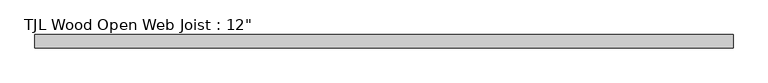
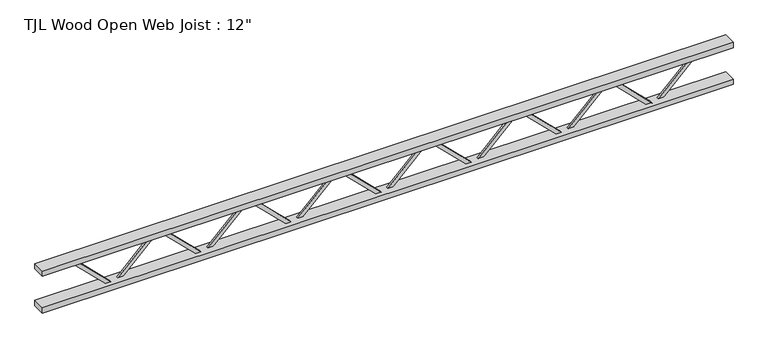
"""IFC4 building model written with IfcOpenShell, lengths in millimetres: beam geometry."""

import ifcopenshell
import ifcopenshell.guid

model = None  # the IFC model being written
_history = None  # IfcOwnerHistory: only IFC2X3 demands one
_inside = {}  # id of a spatial element -> (the spatial element, [elements in it])
_under = {}  # id of a project, library or spatial element -> (it, [spatial elements below it])
_declared = {}  # id of a project -> (the project, [libraries it declares])
_typed = {}  # id of a type object -> (the type object, [elements of that type])
_made_of = {}  # id of a material, layer set ... -> (it, [elements and type objects made of it])


def new_model(schema):
    """Start an empty IFC model of exactly this schema.

    Asked for "IFC4X3", IfcOpenShell would pick the latest addendum, in which some entities
    have other attributes; the version numbers below select the first issue.
    IFC2X3 requires an IfcOwnerHistory on every rooted entity: one is made here for all.
    """
    global model, _history
    if schema == "IFC4X3":
        model = ifcopenshell.file(schema_version=(4, 3, 0, 0))
    else:
        model = ifcopenshell.file(schema=schema)
    _inside.clear()
    _under.clear()
    _declared.clear()
    _typed.clear()
    _made_of.clear()
    _history = None
    if model.schema == "IFC2X3":
        org = make("IfcOrganization", Name="unknown")
        user = make(
            "IfcPersonAndOrganization",
            ThePerson=make("IfcPerson", FamilyName="unknown"),
            TheOrganization=org,
        )
        app = make(
            "IfcApplication",
            ApplicationDeveloper=org,
            Version="unknown",
            ApplicationFullName="unknown",
            ApplicationIdentifier="unknown",
        )
        _history = make(
            "IfcOwnerHistory",
            OwningUser=user,
            OwningApplication=app,
            ChangeAction="ADDED",
            CreationDate=0,
        )
    return model


def make(cls, **values):
    """One entity of the class cls with the attributes given. An attribute that is None is left unset."""
    return model.create_entity(
        cls, **{name: value for name, value in values.items() if value is not None}
    )


def rooted(cls, **values):
    """An entity with a GlobalId (a new one), such as an element, a storey or a relation."""
    return make(cls, GlobalId=ifcopenshell.guid.new(), OwnerHistory=_history, **values)


def si_unit(unit_type, name, prefix=None):
    """IfcSIUnit, for example si_unit("LENGTHUNIT", "METRE", prefix="MILLI")."""
    return make("IfcSIUnit", UnitType=unit_type, Prefix=prefix, Name=name)


def assignment(units):
    """IfcUnitAssignment: the units of a project."""
    return None if units is None else make("IfcUnitAssignment", Units=units)


def point(xyz):
    """IfcCartesianPoint."""
    return None if xyz is None else make("IfcCartesianPoint", Coordinates=xyz)


def direction(xyz):
    """IfcDirection."""
    return None if xyz is None else make("IfcDirection", DirectionRatios=xyz)


def frame(location, z_axis=None, x_axis=None):
    """IfcAxis2Placement3D, a coordinate frame: its origin and axes. An axis left out is left unset."""
    return make(
        "IfcAxis2Placement3D",
        Location=point(location),
        Axis=direction(z_axis),
        RefDirection=direction(x_axis),
    )


def origin():
    """The frame at (0, 0, 0) with its axes left unset."""
    return frame((0.0, 0.0, 0.0))


def place(relative_to, where):
    """IfcLocalPlacement: puts the frame where relative to a parent placement (None: the world)."""
    return make(
        "IfcLocalPlacement", PlacementRelTo=relative_to, RelativePlacement=where
    )


def context(
    kind, dimensions, precision=None, world=None, true_north=None, identifier=None
):
    """IfcGeometricRepresentationContext, for example the 3D "Model" context."""
    return make(
        "IfcGeometricRepresentationContext",
        ContextIdentifier=identifier,
        ContextType=kind,
        CoordinateSpaceDimension=dimensions,
        Precision=precision,
        WorldCoordinateSystem=world,
        TrueNorth=true_north,
    )


def project(units=None, contexts=None):
    """IfcProject with its units and contexts."""
    return rooted(
        "IfcProject",
        Name="project",
        RepresentationContexts=contexts,
        UnitsInContext=assignment(units),
    )


def spatial(cls, under=None, at=None, **own):
    """A site, building, storey or space (cls), placed at a placement, below another one or the project."""
    s = rooted(cls, ObjectPlacement=at, **own)
    if under is not None:
        _under.setdefault(under.id(), (under, []))[1].append(s)
    return s


def polyline(points):
    """IfcPolyline through the points."""
    return make("IfcPolyline", Points=[point(p) for p in points])


def outline(outer, holes=None, kind="AREA"):
    """IfcArbitraryClosedProfileDef: a profile drawn as a closed curve; with holes, ...WithVoids."""
    if holes is None:
        return make("IfcArbitraryClosedProfileDef", ProfileType=kind, OuterCurve=outer)
    return make(
        "IfcArbitraryProfileDefWithVoids",
        ProfileType=kind,
        OuterCurve=outer,
        InnerCurves=holes,
    )


def extrude(swept, where, along, depth):
    """IfcExtrudedAreaSolid: the profile swept, set in the frame where, extruded along a direction by depth."""
    return make(
        "IfcExtrudedAreaSolid",
        SweptArea=swept,
        Position=where,
        ExtrudedDirection=direction(along),
        Depth=depth,
    )


def shape(context_of_items, identifier, shape_type, items):
    """IfcShapeRepresentation: the items that make up one representation, for example the "Body"."""
    return make(
        "IfcShapeRepresentation",
        ContextOfItems=context_of_items,
        RepresentationIdentifier=identifier,
        RepresentationType=shape_type,
        Items=items,
    )


def source(mapping_origin, context_of_items, identifier, shape_type, items):
    """IfcRepresentationMap: a shape defined once, which mapped items show again and again."""
    return make(
        "IfcRepresentationMap",
        MappingOrigin=mapping_origin,
        MappedRepresentation=shape(context_of_items, identifier, shape_type, items),
    )


def transform(
    local_origin,
    x_axis=None,
    y_axis=None,
    z_axis=None,
    scale=None,
    scale2=None,
    scale3=None,
    uniform=True,
):
    """IfcCartesianTransformationOperator3D, or its non-uniform kind. x_axis, y_axis, z_axis: its Axis1, 2, 3."""
    if uniform:
        return make(
            "IfcCartesianTransformationOperator3D",
            Axis1=direction(x_axis),
            Axis2=direction(y_axis),
            LocalOrigin=point(local_origin),
            Scale=scale,
            Axis3=direction(z_axis),
        )
    return make(
        "IfcCartesianTransformationOperator3DnonUniform",
        Axis1=direction(x_axis),
        Axis2=direction(y_axis),
        LocalOrigin=point(local_origin),
        Scale=scale,
        Axis3=direction(z_axis),
        Scale2=scale2,
        Scale3=scale3,
    )


def mapped(mapping_source, mapping_target):
    """IfcMappedItem: shows the shape of a source again, moved by a transform."""
    return make(
        "IfcMappedItem", MappingSource=mapping_source, MappingTarget=mapping_target
    )


def made_of(thing, what):
    """Note that an element or type object is made of a material, layer set ...; save() writes the relation."""
    if what is not None:
        _made_of.setdefault(what.id(), (what, []))[1].append(thing)
    return thing


def element(
    cls,
    number,
    at=None,
    inside=None,
    cuts=None,
    type_object=None,
    material=None,
    context=None,
    identifier="Body",
    shape_type=None,
    held_by="IfcProductDefinitionShape",
    body=None,
    shapes=None,
    **own,
):
    """One element of the class cls, such as IfcWall. Its Tag is "e" and its number.

    at: its placement. inside: the storey or other place that contains it. cuts: it is an
    opening in that element (IfcRelVoidsElement). A single representation is given by context,
    identifier, shape_type and body (its items); several are given by shapes. held_by: the class
    of the entity that holds the representations. save() writes the other relations.
    """
    e = rooted(cls, Tag="e%d" % number, ObjectPlacement=at, **own)
    if body is not None:
        shapes = [shape(context, identifier, shape_type, body)]
    if shapes is not None:
        e.Representation = make(held_by, Representations=shapes)
    if inside is not None:
        _inside.setdefault(inside.id(), (inside, []))[1].append(e)
    if cuts is not None:
        rooted(
            "IfcRelVoidsElement", RelatingBuildingElement=cuts, RelatedOpeningElement=e
        )
    if type_object is not None:
        _typed.setdefault(type_object.id(), (type_object, []))[1].append(e)
    return made_of(e, material)


def aggregate(whole, parts):
    """IfcRelAggregates: a whole, such as a stair, and the parts it consists of."""
    return rooted("IfcRelAggregates", RelatingObject=whole, RelatedObjects=parts)


def save(model, path):
    """Write the relations noted so far, then the file.

    IfcRelAggregates (storeys below a building ...), IfcRelContainedInSpatialStructure (elements
    in a storey), IfcRelDefinesByType, IfcRelAssociatesMaterial and IfcRelDeclares: one each for
    every whole, place, type object, material and project.
    """
    for whole, parts in _under.values():
        aggregate(whole, parts)
    for where, things in _inside.values():
        rooted(
            "IfcRelContainedInSpatialStructure",
            RelatedElements=things,
            RelatingStructure=where,
        )
    for kind, things in _typed.values():
        rooted("IfcRelDefinesByType", RelatedObjects=things, RelatingType=kind)
    for what, things in _made_of.values():
        rooted("IfcRelAssociatesMaterial", RelatedObjects=things, RelatingMaterial=what)
    for by, libraries in _declared.values():
        rooted("IfcRelDeclares", RelatingContext=by, RelatedDefinitions=libraries)
    model.write(path)


def beam_65ede4b9(model_context):
    return source(origin(), model_context, "Body", "SweptSolid", [
        extrude(outline(polyline([(119.0625, 1533.0714286), (144.4625, 1533.0714286), (144.4625, 1515.1805446), (-119.0625, 1246.6662589), (-119.0625, 1201.0571429), (-144.4625, 1201.0571429), (-144.4625, 1257.0480268), (119.0625, 1525.5623126), (119.0625, 1533.0714286)])), frame((0.0, 0.0, 0.0), z_axis=(0.0, 1.0, 0.0), x_axis=(0.0, 0.0, 1.0)), (0.0, 0.0, 1.0), 12.7),
        extrude(outline(polyline([(144.4625, 919.8428571), (119.0625, 919.8428571), (119.0625, 927.3519732), (-144.4625, 1195.8662589), (-144.4625, 1251.8571429), (-119.0625, 1251.8571429), (-119.0625, 1206.2480268), (144.4625, 937.7337411), (144.4625, 919.8428571)])), frame((0.0, -12.7, 0.0), z_axis=(0.0, 1.0, 0.0), x_axis=(0.0, 0.0, 1.0)), (0.0, 0.0, 1.0), 12.7),
        extrude(outline(polyline([(119.0625, 919.8428571), (144.4625, 919.8428571), (144.4625, 901.9519732), (-119.0625, 633.4376874), (-119.0625, 587.8285714), (-144.4625, 587.8285714), (-144.4625, 643.8194554), (119.0625, 912.3337411), (119.0625, 919.8428571)])), frame((0.0, 0.0, 0.0), z_axis=(0.0, 1.0, 0.0), x_axis=(0.0, 0.0, 1.0)), (0.0, 0.0, 1.0), 12.7),
        extrude(outline(polyline([(144.4625, 306.6142857), (119.0625, 306.6142857), (119.0625, 314.1234017), (-144.4625, 582.6376874), (-144.4625, 638.6285714), (-119.0625, 638.6285714), (-119.0625, 593.0194554), (144.4625, 324.5051697), (144.4625, 306.6142857)])), frame((0.0, -12.7, 0.0), z_axis=(0.0, 1.0, 0.0), x_axis=(0.0, 0.0, 1.0)), (0.0, 0.0, 1.0), 12.7),
        extrude(outline(polyline([(119.0625, 306.6142857), (144.4625, 306.6142857), (144.4625, 288.7234017), (-119.0625, 20.209116), (-119.0625, -25.4), (-144.4625, -25.4), (-144.4625, 30.590884), (119.0625, 299.1051697), (119.0625, 306.6142857)])), frame((0.0, 0.0, 0.0), z_axis=(0.0, 1.0, 0.0), x_axis=(0.0, 0.0, 1.0)), (0.0, 0.0, 1.0), 12.7),
        extrude(outline(polyline([(144.4625, -306.6142857), (119.0625, -306.6142857), (119.0625, -299.1051697), (-144.4625, -30.590884), (-144.4625, 25.4), (-119.0625, 25.4), (-119.0625, -20.209116), (144.4625, -288.7234017), (144.4625, -306.6142857)])), frame((0.0, -12.7, 0.0), z_axis=(0.0, 1.0, 0.0), x_axis=(0.0, 0.0, 1.0)), (0.0, 0.0, 1.0), 12.7),
        extrude(outline(polyline([(119.0625, -306.6142857), (144.4625, -306.6142857), (144.4625, -324.5051697), (-119.0625, -593.0194554), (-119.0625, -638.6285714), (-144.4625, -638.6285714), (-144.4625, -582.6376874), (119.0625, -314.1234017), (119.0625, -306.6142857)])), frame((0.0, 0.0, 0.0), z_axis=(0.0, 1.0, 0.0), x_axis=(0.0, 0.0, 1.0)), (0.0, 0.0, 1.0), 12.7),
        extrude(outline(polyline([(144.4625, -919.8428571), (119.0625, -919.8428571), (119.0625, -912.3337411), (-144.4625, -643.8194554), (-144.4625, -587.8285714), (-119.0625, -587.8285714), (-119.0625, -633.4376874), (144.4625, -901.9519732), (144.4625, -919.8428571)])), frame((0.0, -12.7, 0.0), z_axis=(0.0, 1.0, 0.0), x_axis=(0.0, 0.0, 1.0)), (0.0, 0.0, 1.0), 12.7),
        extrude(outline(polyline([(119.0625, -919.8428571), (144.4625, -919.8428571), (144.4625, -937.7337411), (-119.0625, -1206.2480268), (-119.0625, -1251.8571429), (-144.4625, -1251.8571429), (-144.4625, -1195.8662589), (119.0625, -927.3519732), (119.0625, -919.8428571)])), frame((0.0, 0.0, 0.0), z_axis=(0.0, 1.0, 0.0), x_axis=(0.0, 0.0, 1.0)), (0.0, 0.0, 1.0), 12.7),
        extrude(outline(polyline([(144.4625, -1533.0714286), (119.0625, -1533.0714286), (119.0625, -1525.5623126), (-144.4625, -1257.0480268), (-144.4625, -1201.0571429), (-119.0625, -1201.0571429), (-119.0625, -1246.6662589), (144.4625, -1515.1805446), (144.4625, -1533.0714286)])), frame((0.0, -12.7, 0.0), z_axis=(0.0, 1.0, 0.0), x_axis=(0.0, 0.0, 1.0)), (0.0, 0.0, 1.0), 12.7),
        extrude(outline(polyline([(119.0625, 2146.3), (144.4625, 2146.3), (144.4625, 2128.409116), (-119.0625, 1859.8948303), (-119.0625, 1814.2857143), (-144.4625, 1814.2857143), (-144.4625, 1870.2765983), (119.0625, 2138.790884), (119.0625, 2146.3)])), frame((0.0, 0.0, 0.0), z_axis=(0.0, 1.0, 0.0), x_axis=(0.0, 0.0, 1.0)), (0.0, 0.0, 1.0), 12.7),
        extrude(outline(polyline([(144.4625, 1533.0714286), (119.0625, 1533.0714286), (119.0625, 1540.5805446), (-144.4625, 1809.0948303), (-144.4625, 1865.0857143), (-119.0625, 1865.0857143), (-119.0625, 1819.4765983), (144.4625, 1550.9623126), (144.4625, 1533.0714286)])), frame((0.0, -12.7, 0.0), z_axis=(0.0, 1.0, 0.0), x_axis=(0.0, 0.0, 1.0)), (0.0, 0.0, 1.0), 12.7),
        extrude(outline(polyline([(119.0625, -1533.0714286), (144.4625, -1533.0714286), (144.4625, -1550.9623126), (-119.0625, -1819.4765983), (-119.0625, -1865.0857143), (-144.4625, -1865.0857143), (-144.4625, -1809.0948303), (119.0625, -1540.5805446), (119.0625, -1533.0714286)])), frame((0.0, 0.0, 0.0), z_axis=(0.0, 1.0, 0.0), x_axis=(0.0, 0.0, 1.0)), (0.0, 0.0, 1.0), 12.7),
        extrude(outline(polyline([(144.4625, -2146.3), (119.0625, -2146.3), (119.0625, -2138.790884), (-144.4625, -1870.2765983), (-144.4625, -1814.2857143), (-119.0625, -1814.2857143), (-119.0625, -1859.8948303), (144.4625, -2128.409116), (144.4625, -2146.3)])), frame((0.0, -12.7, 0.0), z_axis=(0.0, 1.0, 0.0), x_axis=(0.0, 0.0, 1.0)), (0.0, 0.0, 1.0), 12.7),
        extrude(outline(polyline([(2349.5, 44.45), (2349.5, -44.45), (-2349.5, -44.45), (-2349.5, 44.45), (2349.5, 44.45)])), frame((0.0, 0.0, 112.7125), z_axis=(0.0, 0.0, 1.0), x_axis=(1.0, 0.0, 0.0)), (0.0, 0.0, 1.0), 38.1),
        extrude(outline(polyline([(2349.5, 44.45), (2349.5, -44.45), (-2349.5, -44.45), (-2349.5, 44.45), (2349.5, 44.45)])), frame((0.0, 0.0, -150.8125), z_axis=(0.0, 0.0, 1.0), x_axis=(1.0, 0.0, 0.0)), (0.0, 0.0, 1.0), 38.1),
    ])


if __name__ == "__main__":
    model = new_model("IFC4")
    model_context = context("Model", 3, world=origin())
    ifc_project = project(units=[si_unit("LENGTHUNIT", "METRE", prefix="MILLI")], contexts=[model_context])
    site = spatial("IfcSite", under=ifc_project)
    building = spatial("IfcBuilding", under=site)
    placement = place(None, origin())
    beam_shape = beam_65ede4b9(model_context)
    element("IfcBeam", 1, ObjectType="TJL Wood Open Web Joist : 12\"", at=placement, inside=building, context=model_context, shape_type="MappedRepresentation", body=[
        mapped(beam_shape, transform((0.0, 0.0, 0.0), x_axis=(1.0, 0.0, 0.0), y_axis=(0.0, 1.0, 0.0), z_axis=(0.0, 0.0, 1.0))),
    ])
    save(model, "model.ifc")
